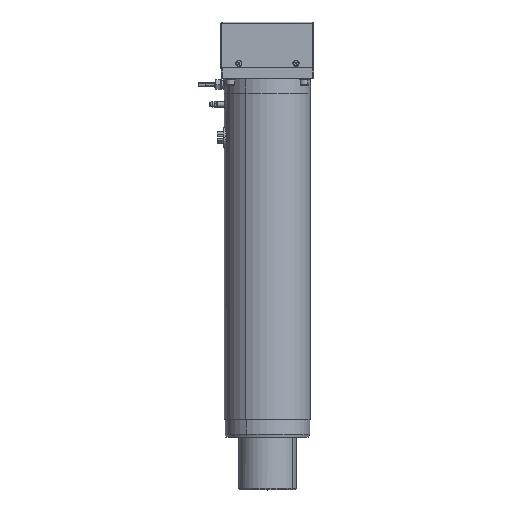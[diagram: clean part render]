
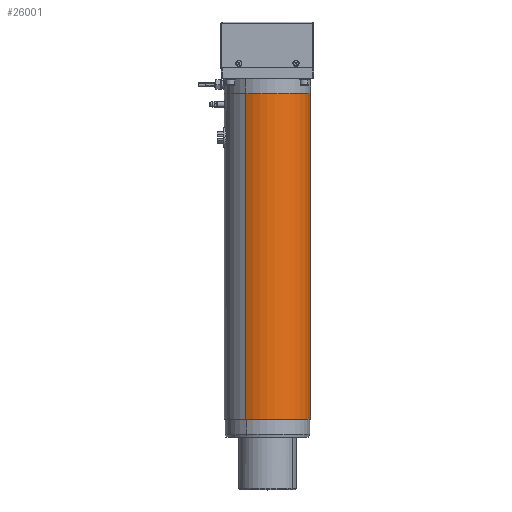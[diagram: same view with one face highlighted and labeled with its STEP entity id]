
A CAD part, top view. The second image highlights one B-rep face of the part: STEP entity #26001.
In plain terms, the highlighted cylindrical face has radius 49 mm (diameter 98 mm), a partial arc.
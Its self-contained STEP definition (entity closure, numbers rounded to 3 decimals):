
#205 = VECTOR ( 'NONE', #23913, 1000. ) ;
#426 = AXIS2_PLACEMENT_3D ( 'NONE', #6585, #22472, #32507 ) ;
#1062 = ORIENTED_EDGE ( 'NONE', *, *, #28843, .F. ) ;
#1165 = CARTESIAN_POINT ( 'NONE',  ( -52.75, 20., -52.75 ) ) ;
#1406 = VERTEX_POINT ( 'NONE', #24686 ) ;
#1756 = CARTESIAN_POINT ( 'NONE',  ( -77.25, 0., -10.315 ) ) ;
#1805 = AXIS2_PLACEMENT_3D ( 'NONE', #23216, #23332, #7207 ) ;
#3466 = ORIENTED_EDGE ( 'NONE', *, *, #23931, .T. ) ;
#3577 = ORIENTED_EDGE ( 'NONE', *, *, #12556, .T. ) ;
#6585 = CARTESIAN_POINT ( 'NONE',  ( -52.75, 390., -52.75 ) ) ;
#7207 = DIRECTION ( 'NONE',  ( 0.5, 0., -0.866 ) ) ;
#7241 = EDGE_LOOP ( 'NONE', ( #3577, #3466, #14109, #1062 ) ) ;
#7955 = CARTESIAN_POINT ( 'NONE',  ( -77.25, 390., -10.315 ) ) ;
#8248 = CIRCLE ( 'NONE', #426, 49. ) ;
#8822 = VERTEX_POINT ( 'NONE', #7955 ) ;
#12285 = CARTESIAN_POINT ( 'NONE',  ( -28.25, 20., -95.185 ) ) ;
#12556 = EDGE_CURVE ( 'NONE', #1406, #8822, #8248, .T. ) ;
#12938 = CIRCLE ( 'NONE', #13437, 49. ) ;
#13437 = AXIS2_PLACEMENT_3D ( 'NONE', #1165, #22518, #16997 ) ;
#14109 = ORIENTED_EDGE ( 'NONE', *, *, #30974, .F. ) ;
#14662 = LINE ( 'NONE', #15980, #205 ) ;
#15293 = CYLINDRICAL_SURFACE ( 'NONE', #1805, 49. ) ;
#15980 = CARTESIAN_POINT ( 'NONE',  ( -28.25, 0., -95.185 ) ) ;
#16997 = DIRECTION ( 'NONE',  ( 0.5, 0., -0.866 ) ) ;
#17497 = LINE ( 'NONE', #1756, #33181 ) ;
#18905 = CARTESIAN_POINT ( 'NONE',  ( -77.25, 20., -10.315 ) ) ;
#19560 = VERTEX_POINT ( 'NONE', #18905 ) ;
#21052 = FACE_OUTER_BOUND ( 'NONE', #7241, .T. ) ;
#22472 = DIRECTION ( 'NONE',  ( 0., -1., 0. ) ) ;
#22518 = DIRECTION ( 'NONE',  ( 0., -1., 0. ) ) ;
#23216 = CARTESIAN_POINT ( 'NONE',  ( -52.75, 0., -52.75 ) ) ;
#23332 = DIRECTION ( 'NONE',  ( 0., -1., 0. ) ) ;
#23913 = DIRECTION ( 'NONE',  ( 0., -1., 0. ) ) ;
#23931 = EDGE_CURVE ( 'NONE', #8822, #19560, #17497, .T. ) ;
#24686 = CARTESIAN_POINT ( 'NONE',  ( -28.25, 390., -95.185 ) ) ;
#25439 = VERTEX_POINT ( 'NONE', #12285 ) ;
#26001 = ADVANCED_FACE ( 'NONE', ( #21052 ), #15293, .T. ) ;
#28052 = DIRECTION ( 'NONE',  ( 0., -1., 0. ) ) ;
#28843 = EDGE_CURVE ( 'NONE', #1406, #25439, #14662, .T. ) ;
#30974 = EDGE_CURVE ( 'NONE', #25439, #19560, #12938, .T. ) ;
#32507 = DIRECTION ( 'NONE',  ( 0.5, 0., -0.866 ) ) ;
#33181 = VECTOR ( 'NONE', #28052, 1000. ) ;
